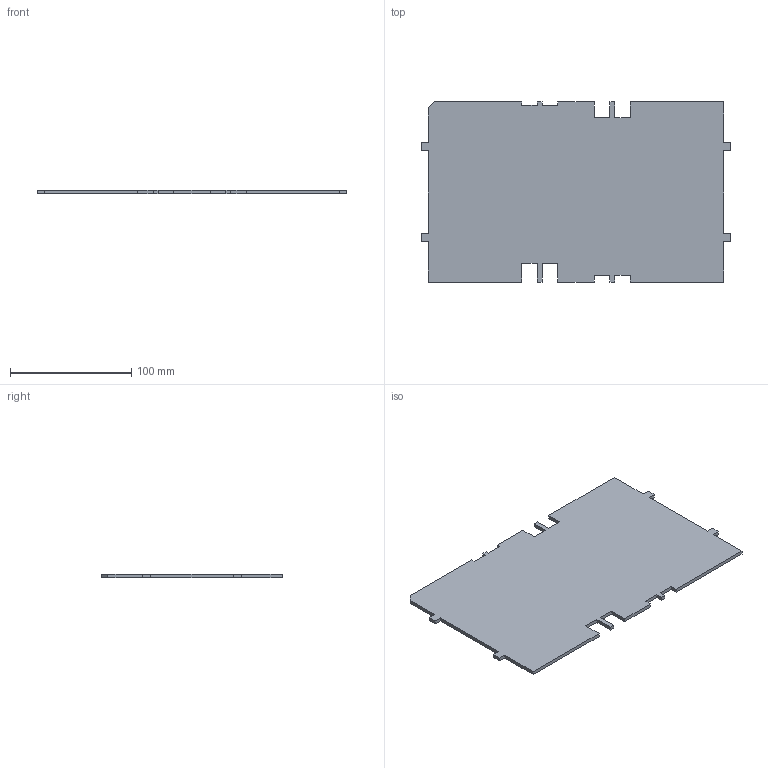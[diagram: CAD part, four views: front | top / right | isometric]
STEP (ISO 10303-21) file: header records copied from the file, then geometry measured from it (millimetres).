
FILE_DESCRIPTION(('CAx-IF Rec.Pracs.---Model Styling and Organization---1.2---2011-12-15','CAx-IF Rec.Pracs.---Geometric and Assembly Validation Properties---4.1---2014-06-16','CAx-IF Rec.Pracs.---PMI Polyline Presentation---2.0---2013-05-24'),'2;1');
FILE_NAME('R5M2W3MF.stp','2021-05-05T11:50:46+03:00',(''),(''),'STEP Interface 4.4 by CT CoreTechnologie','3D_Evolution4.4 by CT CoreTechnologie','');
FILE_SCHEMA(('AUTOMOTIVE_DESIGN { 1 0 10303 214 1 1 1 1 }'));
Length unit declared in the file: millimetre
Products named in the file (1): R5M2W3MF
Bounding box: 256 x 149 x 3 mm (x, y, z)
Surface area: 74036.2 mm2 (no closed solid volume)
Topology: 0 solids, 1 shells, 55 faces, 159 edges, 106 vertices
Faces by surface type: plane 55
Entity records: 1801 total; most frequent: CARTESIAN_POINT 321, ORIENTED_EDGE 318, DIRECTION 271, VECTOR 159, LINE 159, EDGE_CURVE 159, VERTEX_POINT 106, AXIS2_PLACEMENT_3D 56
